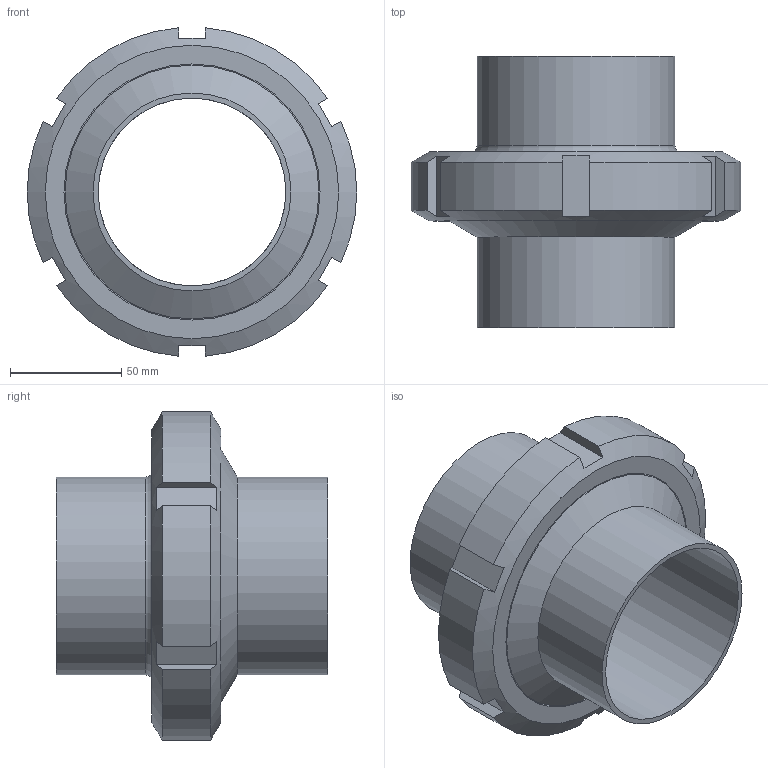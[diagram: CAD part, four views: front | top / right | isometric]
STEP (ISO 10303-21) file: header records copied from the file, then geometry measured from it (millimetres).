
FILE_DESCRIPTION(/* description */ ('Aseptik_Rohrverbindung_DIN 11864-1-A_88,9x2,3_L122'),/* implementation_level */ '2;1');
FILE_NAME(/* name */ 'L:\Normteile\N0024 - Rohrverbindungen\N0024_002 - DIN11864\N0024_002_001 - geschraubt\N0024_002_001\Step Marketing\DIN11864-1-A_88,9x2,3_L122.stp',/* time_stamp */ '2021-08-31T10:26:59+02:00',/* author */ ('Csasse'),/* organization */ ('Dockweiler AG'),/* preprocessor_version */ 'ST-DEVELOPER v18',/* originating_system */ 'Autodesk Inventor 2020',/* authorisation */ '');
FILE_SCHEMA (('AUTOMOTIVE_DESIGN { 1 0 10303 214 3 1 1 }'));
Length unit declared in the file: millimetre
Products named in the file (5): N0024_002_001_48; N0003_007_001_20; N0003_007_002_20; N0005_005_002_001_21; N0009_009_20
Assembly tree (4 placements, depth 2):
  N0024_002_001_48
    N0003_007_001_20
    N0003_007_002_20
    N0005_005_002_001_21
    N0009_009_20
Bounding box: 148 x 122 x 147.51 mm (x, y, z)
Volume: 417906.2 mm3; surface area: 142616.4 mm2
Topology: 4 solids, 4 shells, 68 faces, 200 edges, 144 vertices
Faces by surface type: plane 30, cylinder 16, torus 12, cone 10
Full cylindrical faces by diameter (mm): 84.3 x2, 88.9 x2, 114 x1, 115 x1, 118.9 x1, 119 x1, 123.65 x1, 130.635 x1
Entity records: 2600 total; most frequent: CARTESIAN_POINT 497, DIRECTION 434, ORIENTED_EDGE 400, EDGE_CURVE 200, AXIS2_PLACEMENT_3D 195, VERTEX_POINT 144, CIRCLE 118, EDGE_LOOP 80
